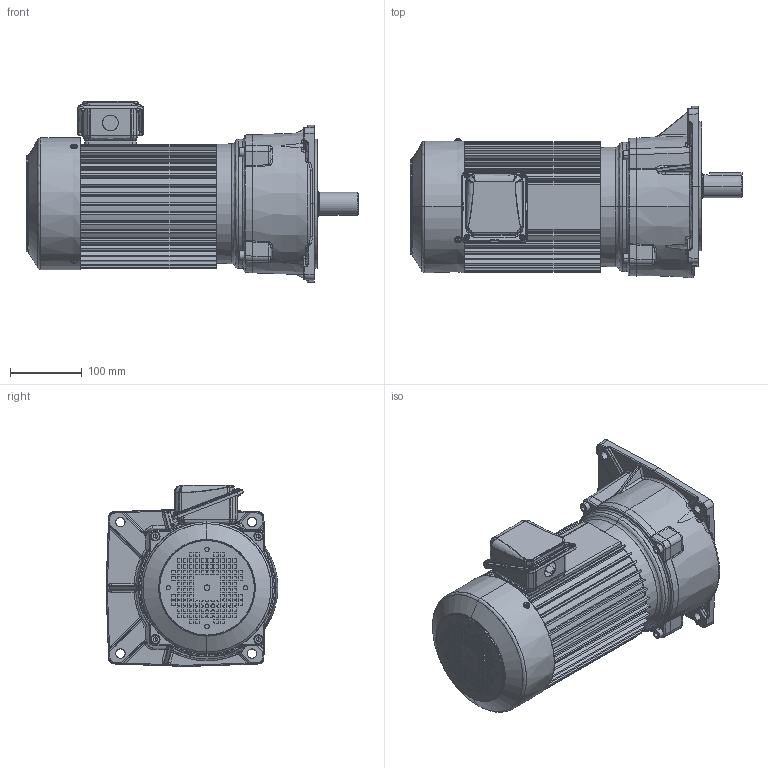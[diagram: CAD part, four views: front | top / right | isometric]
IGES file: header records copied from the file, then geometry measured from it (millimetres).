
Start section: SolidWorks IGES file using analytic representation for surfaces
Global section: file name: \\100.100.100.8\1_共有作業フォルダ\1-5_３Ｄデータ\solidworks\personal-folder\H.Nagayama\SGP1外形075~370\P1(3D)_075~370\igs\TMF2-15E-(5~25).IGS; native system: SolidWorks 2018; preprocessor: SolidWorks 2018; author: sigma-giken; date: 200806.152913; units: millimetre
Bounding box: 464 x 240.19 x 253 mm (x, y, z)
Surface area: 681526 mm2 (no closed solid volume)
Topology: 0 solids, 0 shells, 2378 faces, 26070 edges, 26032 vertices
Faces by surface type: bspline 1252, revolution 1126
